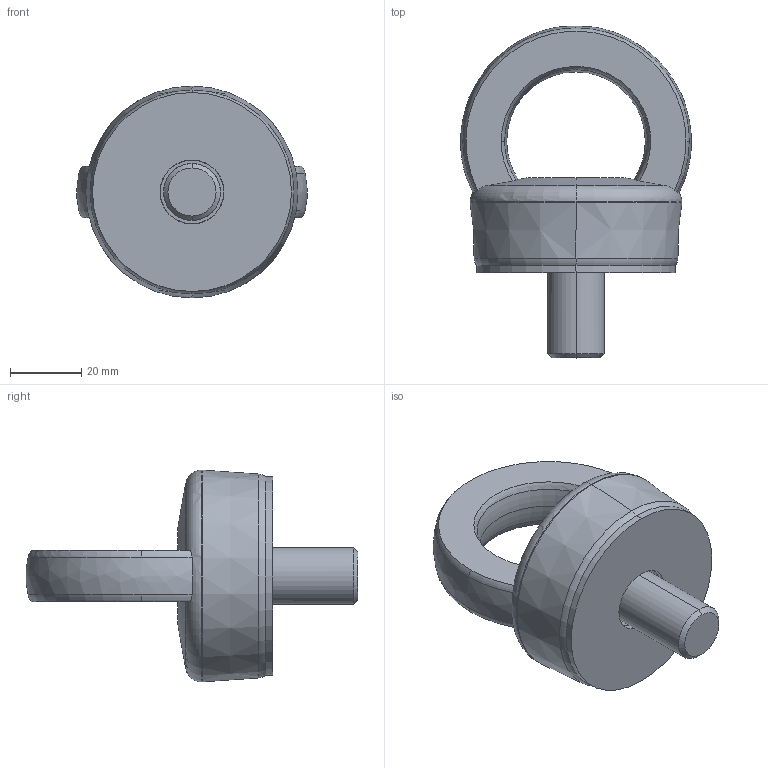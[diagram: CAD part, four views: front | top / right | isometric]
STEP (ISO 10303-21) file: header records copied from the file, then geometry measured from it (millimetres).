
FILE_DESCRIPTION(('CATIA V5 STEP Exchange'),'2;1');
FILE_NAME('C:\Users\Raffaele\Desktop\3D X SITO CF\GOLFARI\817XC\C817X16\STEP-2.03\C817X16.stp','2019-07-01T07:21:39+00:00',('none'),('none'),'CATIA Version 5 Release 20 GA (IN-10)','CATIA V5 STEP AP203','none');
FILE_SCHEMA(('CONFIG_CONTROL_DESIGN'));
Length unit declared in the file: millimetre
Products named in the file (1): _C817X16
Bounding box: 65 x 93.43 x 59.63 mm (x, y, z)
Volume: 86744 mm3; surface area: 19183.5 mm2
Topology: 1 solids, 1 shells, 61 faces, 178 edges, 122 vertices
Faces by surface type: torus 26, plane 15, cylinder 12, cone 6, bspline 2
Entity records: 2311 total; most frequent: CARTESIAN_POINT 759, ORIENTED_EDGE 356, DIRECTION 240, EDGE_CURVE 178, AXIS2_PLACEMENT_3D 152, VERTEX_POINT 122, CIRCLE 98, EDGE_LOOP 66
